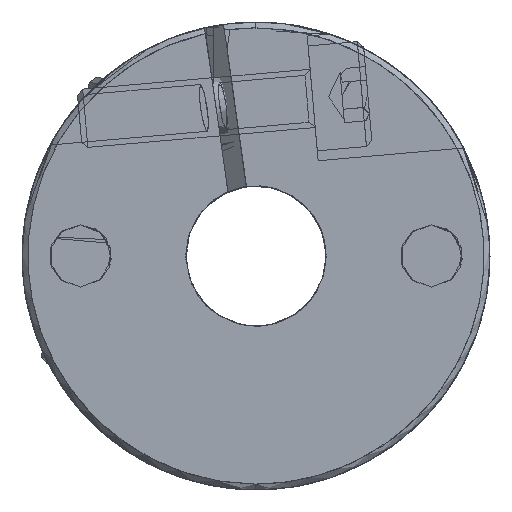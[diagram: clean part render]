
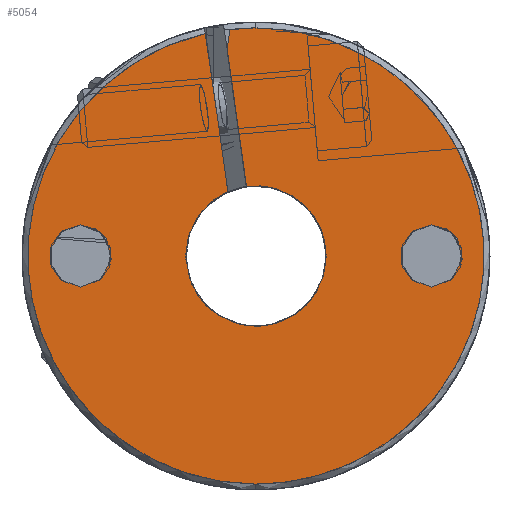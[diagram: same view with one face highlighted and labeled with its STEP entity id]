
A CAD part, left-side view. The second image highlights one B-rep face of the part: STEP entity #5054.
In plain terms, the highlighted planar face has unit normal (-1, 0, 0).
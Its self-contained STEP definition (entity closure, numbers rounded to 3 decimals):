
#5054=ADVANCED_FACE('',(#5570,#5436,#5437),#17822,.T.);
#5436=FACE_BOUND('',#6011,.T.);
#5437=FACE_BOUND('',#6012,.T.);
#5570=FACE_OUTER_BOUND('',#6010,.T.);
#6010=EDGE_LOOP('',(#6594));
#6011=EDGE_LOOP('',(#6595));
#6012=EDGE_LOOP('',(#6596));
#6594=ORIENTED_EDGE('',*,*,#14085,.T.);
#6595=ORIENTED_EDGE('',*,*,#14086,.T.);
#6596=ORIENTED_EDGE('',*,*,#14087,.T.);
#9837=PCURVE('',#17822,#11253);
#9838=PCURVE('',#17822,#11254);
#9839=PCURVE('',#17822,#11255);
#11253=DEFINITIONAL_REPRESENTATION('',(#15470),#41584);
#11254=DEFINITIONAL_REPRESENTATION('',(#15472),#41584);
#11255=DEFINITIONAL_REPRESENTATION('',(#15474),#41584);
#12669=SURFACE_CURVE('',#15469,(#9837),.PCURVE_S1.);
#12670=SURFACE_CURVE('',#15471,(#9838),.PCURVE_S1.);
#12671=SURFACE_CURVE('',#15473,(#9839),.PCURVE_S1.);
#14085=EDGE_CURVE('',#16506,#16506,#12669,.T.);
#14086=EDGE_CURVE('',#16507,#16507,#12670,.T.);
#14087=EDGE_CURVE('',#16508,#16508,#12671,.T.);
#15469=(
BOUNDED_CURVE()
B_SPLINE_CURVE(2,(#20459,#20460,#20461,#20462,#20463,#20464,#20465,#20466,
#20467,#20468,#20469,#20470,#20471,#20472,#20473,#20474,#20475,#20476,#20477,
#20478,#20479,#20480,#20481,#20482,#20483),.UNSPECIFIED.,.T.,.F.)
B_SPLINE_CURVE_WITH_KNOTS((3,2,2,2,2,2,2,2,2,2,2,2,3),(-14.211,
-12.751,-11.292,-9.721,-8.15,
-8.011,-7.011,-6.155,-5.3,-3.729,
-2.159,-1.,0.),.UNSPECIFIED.)
CURVE()
GEOMETRIC_REPRESENTATION_ITEM()
RATIONAL_B_SPLINE_CURVE((1.,0.745,1.,0.745,1.,0.707,
1.,0.707,1.,0.998,1.,1.,1.,0.91,1.,
0.91,1.,0.707,1.,0.707,1.,0.837,
1.,1.,1.))
REPRESENTATION_ITEM('')
);
#15470=(
BOUNDED_CURVE()
B_SPLINE_CURVE(2,(#20484,#20485,#20486,#20487,#20488,#20489,#20490,#20491,
#20492,#20493,#20494,#20495,#20496,#20497,#20498,#20499,#20500,#20501,#20502,
#20503,#20504,#20505,#20506,#20507,#20508),.UNSPECIFIED.,.T.,.F.)
B_SPLINE_CURVE_WITH_KNOTS((3,2,2,2,2,2,2,2,2,2,2,2,3),(-14.211,
-12.751,-11.292,-9.721,-8.15,
-8.011,-7.011,-6.155,-5.3,-3.729,
-2.159,-1.,0.),.UNSPECIFIED.)
CURVE()
GEOMETRIC_REPRESENTATION_ITEM()
RATIONAL_B_SPLINE_CURVE((1.,0.745,1.,0.745,1.,0.707,
1.,0.707,1.,0.998,1.,1.,1.,0.91,1.,
0.91,1.,0.707,1.,0.707,1.,0.837,
1.,1.,1.))
REPRESENTATION_ITEM('')
);
#15471=(
BOUNDED_CURVE()
B_SPLINE_CURVE(2,(#20509,#20510,#20511,#20512,#20513,#20514,#20515,#20516,
#20517),.UNSPECIFIED.,.T.,.F.)
B_SPLINE_CURVE_WITH_KNOTS((3,2,2,2,3),(-6.283,-4.712,
-3.142,-1.571,0.),.UNSPECIFIED.)
CURVE()
GEOMETRIC_REPRESENTATION_ITEM()
RATIONAL_B_SPLINE_CURVE((1.,0.707,1.,0.707,1.,0.707,
1.,0.707,1.))
REPRESENTATION_ITEM('')
);
#15472=(
BOUNDED_CURVE()
B_SPLINE_CURVE(2,(#20518,#20519,#20520,#20521,#20522,#20523,#20524,#20525,
#20526),.UNSPECIFIED.,.T.,.F.)
B_SPLINE_CURVE_WITH_KNOTS((3,2,2,2,3),(-6.283,-4.712,
-3.142,-1.571,0.),.UNSPECIFIED.)
CURVE()
GEOMETRIC_REPRESENTATION_ITEM()
RATIONAL_B_SPLINE_CURVE((1.,0.707,1.,0.707,1.,0.707,
1.,0.707,1.))
REPRESENTATION_ITEM('')
);
#15473=(
BOUNDED_CURVE()
B_SPLINE_CURVE(2,(#20527,#20528,#20529,#20530,#20531,#20532,#20533,#20534,
#20535),.UNSPECIFIED.,.T.,.F.)
B_SPLINE_CURVE_WITH_KNOTS((3,2,2,2,3),(-6.283,-4.712,
-3.142,-1.571,0.),.UNSPECIFIED.)
CURVE()
GEOMETRIC_REPRESENTATION_ITEM()
RATIONAL_B_SPLINE_CURVE((1.,0.707,1.,0.707,1.,0.707,
1.,0.707,1.))
REPRESENTATION_ITEM('')
);
#15474=(
BOUNDED_CURVE()
B_SPLINE_CURVE(2,(#20536,#20537,#20538,#20539,#20540,#20541,#20542,#20543,
#20544),.UNSPECIFIED.,.T.,.F.)
B_SPLINE_CURVE_WITH_KNOTS((3,2,2,2,3),(-6.283,-4.712,
-3.142,-1.571,0.),.UNSPECIFIED.)
CURVE()
GEOMETRIC_REPRESENTATION_ITEM()
RATIONAL_B_SPLINE_CURVE((1.,0.707,1.,0.707,1.,0.707,
1.,0.707,1.))
REPRESENTATION_ITEM('')
);
#16506=VERTEX_POINT('',#20456);
#16507=VERTEX_POINT('',#20457);
#16508=VERTEX_POINT('',#20458);
#17822=PLANE('',#18077);
#18077=AXIS2_PLACEMENT_3D('',#20455,#18297,$);
#18297=DIRECTION('',(-1.,0.,0.));
#20455=CARTESIAN_POINT('',(0.,9.75,9.75));
#20456=CARTESIAN_POINT('',(0.,2.152,9.509));
#20457=CARTESIAN_POINT('',(0.,-7.5,-1.325));
#20458=CARTESIAN_POINT('',(0.,7.5,-1.325));
#20459=CARTESIAN_POINT('',(0.,2.152,9.509));
#20460=CARTESIAN_POINT('',(0.,10.658,7.584));
#20461=CARTESIAN_POINT('',(0.,9.69,-1.083));
#20462=CARTESIAN_POINT('',(0.,8.721,-9.75));
#20463=CARTESIAN_POINT('',(0.,0.,-9.75));
#20464=CARTESIAN_POINT('',(0.,-9.75,-9.75));
#20465=CARTESIAN_POINT('',(0.,-9.75,0.));
#20466=CARTESIAN_POINT('',(0.,-9.75,9.75));
#20467=CARTESIAN_POINT('',(0.,0.,9.75));
#20468=CARTESIAN_POINT('',(0.,0.682,9.75));
#20469=CARTESIAN_POINT('',(0.,1.357,9.655));
#20470=CARTESIAN_POINT('',(0.,0.887,6.313));
#20471=CARTESIAN_POINT('',(0.,0.418,2.971));
#20472=CARTESIAN_POINT('',(0.,-0.936,3.161));
#20473=CARTESIAN_POINT('',(0.,-1.968,2.264));
#20474=CARTESIAN_POINT('',(0.,-3.,1.367));
#20475=CARTESIAN_POINT('',(0.,-3.,0.));
#20476=CARTESIAN_POINT('',(0.,-3.,-3.));
#20477=CARTESIAN_POINT('',(0.,0.,-3.));
#20478=CARTESIAN_POINT('',(0.,3.,-3.));
#20479=CARTESIAN_POINT('',(0.,3.,0.));
#20480=CARTESIAN_POINT('',(0.,3.,1.962));
#20481=CARTESIAN_POINT('',(0.,1.202,2.749));
#20482=CARTESIAN_POINT('',(0.,1.677,6.129));
#20483=CARTESIAN_POINT('',(0.,2.152,9.509));
#20484=CARTESIAN_POINT('',(0.012,0.39));
#20485=CARTESIAN_POINT('',(0.111,-0.047));
#20486=CARTESIAN_POINT('',(0.556,0.003));
#20487=CARTESIAN_POINT('',(1.,0.053));
#20488=CARTESIAN_POINT('',(1.,0.5));
#20489=CARTESIAN_POINT('',(1.,1.));
#20490=CARTESIAN_POINT('',(0.5,1.));
#20491=CARTESIAN_POINT('',(0.,1.));
#20492=CARTESIAN_POINT('',(0.,0.5));
#20493=CARTESIAN_POINT('',(0.,0.465));
#20494=CARTESIAN_POINT('',(0.005,0.43));
#20495=CARTESIAN_POINT('',(0.176,0.455));
#20496=CARTESIAN_POINT('',(0.348,0.479));
#20497=CARTESIAN_POINT('',(0.338,0.548));
#20498=CARTESIAN_POINT('',(0.384,0.601));
#20499=CARTESIAN_POINT('',(0.43,0.654));
#20500=CARTESIAN_POINT('',(0.5,0.654));
#20501=CARTESIAN_POINT('',(0.654,0.654));
#20502=CARTESIAN_POINT('',(0.654,0.5));
#20503=CARTESIAN_POINT('',(0.654,0.346));
#20504=CARTESIAN_POINT('',(0.5,0.346));
#20505=CARTESIAN_POINT('',(0.399,0.346));
#20506=CARTESIAN_POINT('',(0.359,0.438));
#20507=CARTESIAN_POINT('',(0.186,0.414));
#20508=CARTESIAN_POINT('',(0.012,0.39));
#20509=CARTESIAN_POINT('',(0.,-7.5,-1.325));
#20510=CARTESIAN_POINT('',(0.,-6.175,-1.325));
#20511=CARTESIAN_POINT('',(0.,-6.175,0.));
#20512=CARTESIAN_POINT('',(0.,-6.175,1.325));
#20513=CARTESIAN_POINT('',(0.,-7.5,1.325));
#20514=CARTESIAN_POINT('',(0.,-8.825,1.325));
#20515=CARTESIAN_POINT('',(0.,-8.825,0.));
#20516=CARTESIAN_POINT('',(0.,-8.825,-1.325));
#20517=CARTESIAN_POINT('',(0.,-7.5,-1.325));
#20518=CARTESIAN_POINT('',(0.568,0.885));
#20519=CARTESIAN_POINT('',(0.568,0.817));
#20520=CARTESIAN_POINT('',(0.5,0.817));
#20521=CARTESIAN_POINT('',(0.432,0.817));
#20522=CARTESIAN_POINT('',(0.432,0.885));
#20523=CARTESIAN_POINT('',(0.432,0.953));
#20524=CARTESIAN_POINT('',(0.5,0.953));
#20525=CARTESIAN_POINT('',(0.568,0.953));
#20526=CARTESIAN_POINT('',(0.568,0.885));
#20527=CARTESIAN_POINT('',(0.,7.5,-1.325));
#20528=CARTESIAN_POINT('',(0.,8.825,-1.325));
#20529=CARTESIAN_POINT('',(0.,8.825,0.));
#20530=CARTESIAN_POINT('',(0.,8.825,1.325));
#20531=CARTESIAN_POINT('',(0.,7.5,1.325));
#20532=CARTESIAN_POINT('',(0.,6.175,1.325));
#20533=CARTESIAN_POINT('',(0.,6.175,0.));
#20534=CARTESIAN_POINT('',(0.,6.175,-1.325));
#20535=CARTESIAN_POINT('',(0.,7.5,-1.325));
#20536=CARTESIAN_POINT('',(0.568,0.115));
#20537=CARTESIAN_POINT('',(0.568,0.047));
#20538=CARTESIAN_POINT('',(0.5,0.047));
#20539=CARTESIAN_POINT('',(0.432,0.047));
#20540=CARTESIAN_POINT('',(0.432,0.115));
#20541=CARTESIAN_POINT('',(0.432,0.183));
#20542=CARTESIAN_POINT('',(0.5,0.183));
#20543=CARTESIAN_POINT('',(0.568,0.183));
#20544=CARTESIAN_POINT('',(0.568,0.115));
#41584=(
GEOMETRIC_REPRESENTATION_CONTEXT(2)
PARAMETRIC_REPRESENTATION_CONTEXT()
REPRESENTATION_CONTEXT('pspace','')
);
